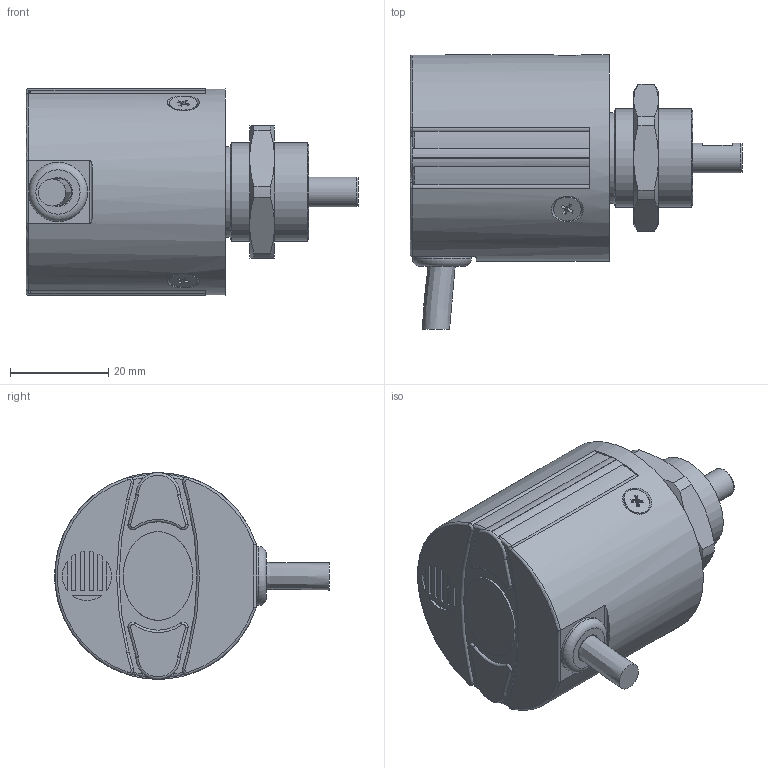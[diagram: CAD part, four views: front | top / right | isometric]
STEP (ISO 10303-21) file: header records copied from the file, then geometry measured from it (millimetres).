
FILE_DESCRIPTION( ( 'Unknown' ), '1' );
FILE_NAME( 'C:/Users/malfermoa/Desktop/step/EL40I.stp', 'Unknown', ( 'Unknown' ), ( 'Unknown' ), 'PSStep 15.0.49', 'Unknown', ' ' );
FILE_SCHEMA( ( 'AUTOMOTIVE_DESIGN { 1 0 10303 214 1 1 1 1 }' ) );
Length unit declared in the file: millimetre
Products named in the file (3): Assem1; 23220001B1_1; 41320005C1
Assembly tree (2 placements, depth 2):
  Assem1
    23220001B1_1
    41320005C1
Bounding box: 67.5 x 55.81 x 42 mm (x, y, z)
Volume: 31685.2 mm3; surface area: 22279.2 mm2
Topology: 2 solids, 5 shells, 293 faces, 715 edges, 462 vertices
Faces by surface type: plane 128, cylinder 91, cone 38, torus 27, bspline 8, extrusion 1
Full cylindrical faces by diameter (mm): 2.459 x6, 5.6 x3, 6 x8, 8.5 x2, 8.997 x1, 10 x1, 10.5 x2, 12 x1, 13 x2, 15 x1, 18.5 x1, 20 x2, 24 x1, 36 x1, 38.8 x2, 39 x1, 42 x1
Entity records: 14496 total; most frequent: CARTESIAN_POINT 5849, DIRECTION 1332, ORIENTED_EDGE 1198, EDGE_CURVE 599, AXIS2_PLACEMENT_3D 531, VERTEX_POINT 426, EDGE_LOOP 390, FACE_OUTER_BOUND 323
